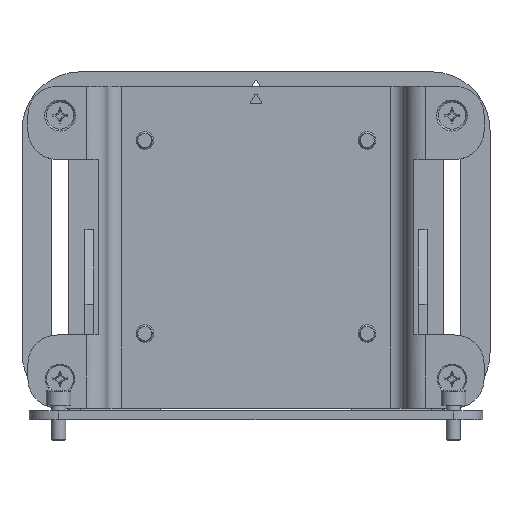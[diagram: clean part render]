
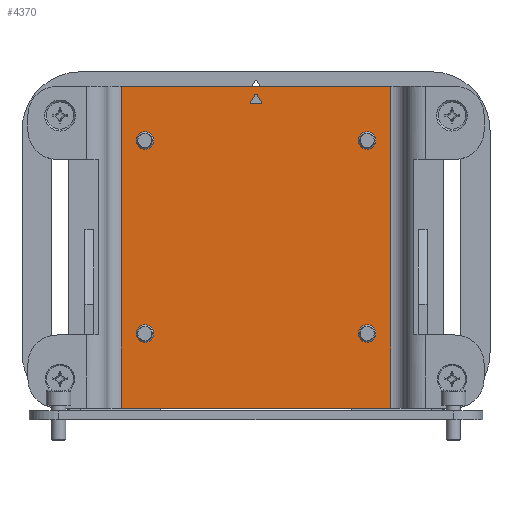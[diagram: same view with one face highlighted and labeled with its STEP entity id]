
A CAD part, top view. The second image highlights one B-rep face of the part: STEP entity #4370.
In plain terms, the highlighted planar face has unit normal (0, 0, 1).
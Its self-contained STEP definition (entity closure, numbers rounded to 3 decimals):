
#4370=ADVANCED_FACE('',(#7214,#7215,#7216,#7217,#7218,#7219),#4909,.F.);
#4909=PLANE('',#13079);
#5286=LINE('',#16464,#6250);
#5287=LINE('',#16467,#6251);
#5288=LINE('',#16469,#6252);
#5289=LINE('',#16471,#6253);
#5290=LINE('',#16479,#6254);
#5291=LINE('',#16483,#6255);
#5292=LINE('',#16487,#6256);
#6250=VECTOR('',#13885,1.);
#6251=VECTOR('',#13886,1.);
#6252=VECTOR('',#13887,1.);
#6253=VECTOR('',#13888,1.);
#6254=VECTOR('',#13895,1.);
#6255=VECTOR('',#13898,1.);
#6256=VECTOR('',#13901,1.);
#7214=FACE_BOUND('',#7495,.T.);
#7215=FACE_BOUND('',#7496,.T.);
#7216=FACE_BOUND('',#7497,.T.);
#7217=FACE_BOUND('',#7498,.T.);
#7218=FACE_BOUND('',#7499,.T.);
#7219=FACE_BOUND('',#7500,.T.);
#7495=EDGE_LOOP('',(#8187));
#7496=EDGE_LOOP('',(#8188));
#7497=EDGE_LOOP('',(#8189,#8190,#8191,#8192));
#7498=EDGE_LOOP('',(#8193));
#7499=EDGE_LOOP('',(#8194));
#7500=EDGE_LOOP('',(#8195,#8196,#8197,#8198,#8199,#8200));
#8187=ORIENTED_EDGE('',*,*,#11553,.T.);
#8188=ORIENTED_EDGE('',*,*,#11554,.F.);
#8189=ORIENTED_EDGE('',*,*,#11555,.F.);
#8190=ORIENTED_EDGE('',*,*,#11556,.F.);
#8191=ORIENTED_EDGE('',*,*,#11557,.T.);
#8192=ORIENTED_EDGE('',*,*,#11558,.T.);
#8193=ORIENTED_EDGE('',*,*,#11559,.F.);
#8194=ORIENTED_EDGE('',*,*,#11560,.T.);
#8195=ORIENTED_EDGE('',*,*,#11561,.F.);
#8196=ORIENTED_EDGE('',*,*,#11562,.F.);
#8197=ORIENTED_EDGE('',*,*,#11563,.F.);
#8198=ORIENTED_EDGE('',*,*,#11564,.F.);
#8199=ORIENTED_EDGE('',*,*,#11565,.F.);
#8200=ORIENTED_EDGE('',*,*,#11566,.F.);
#10687=VERTEX_POINT('',#16461);
#10688=VERTEX_POINT('',#16463);
#10689=VERTEX_POINT('',#16465);
#10690=VERTEX_POINT('',#16466);
#10691=VERTEX_POINT('',#16468);
#10692=VERTEX_POINT('',#16470);
#10693=VERTEX_POINT('',#16473);
#10694=VERTEX_POINT('',#16475);
#10695=VERTEX_POINT('',#16477);
#10696=VERTEX_POINT('',#16478);
#10697=VERTEX_POINT('',#16480);
#10698=VERTEX_POINT('',#16482);
#10699=VERTEX_POINT('',#16484);
#10700=VERTEX_POINT('',#16486);
#11553=EDGE_CURVE('',#10687,#10687,#12803,.T.);
#11554=EDGE_CURVE('',#10688,#10688,#12804,.T.);
#11555=EDGE_CURVE('',#10689,#10690,#5286,.T.);
#11556=EDGE_CURVE('',#10691,#10689,#5287,.T.);
#11557=EDGE_CURVE('',#10691,#10692,#5288,.T.);
#11558=EDGE_CURVE('',#10692,#10690,#5289,.T.);
#11559=EDGE_CURVE('',#10693,#10693,#12805,.T.);
#11560=EDGE_CURVE('',#10694,#10694,#12806,.T.);
#11561=EDGE_CURVE('',#10695,#10696,#12807,.T.);
#11562=EDGE_CURVE('',#10697,#10695,#5290,.T.);
#11563=EDGE_CURVE('',#10698,#10697,#12808,.T.);
#11564=EDGE_CURVE('',#10699,#10698,#5291,.T.);
#11565=EDGE_CURVE('',#10700,#10699,#12809,.T.);
#11566=EDGE_CURVE('',#10696,#10700,#5292,.T.);
#12803=CIRCLE('',#13072,3.);
#12804=CIRCLE('',#13073,3.);
#12805=CIRCLE('',#13074,3.);
#12806=CIRCLE('',#13075,3.);
#12807=CIRCLE('',#13076,0.5);
#12808=CIRCLE('',#13077,0.5);
#12809=CIRCLE('',#13078,0.5);
#13072=AXIS2_PLACEMENT_3D('',#16460,#13881,#13882);
#13073=AXIS2_PLACEMENT_3D('',#16462,#13883,#13884);
#13074=AXIS2_PLACEMENT_3D('',#16472,#13889,#13890);
#13075=AXIS2_PLACEMENT_3D('',#16474,#13891,#13892);
#13076=AXIS2_PLACEMENT_3D('',#16476,#13893,#13894);
#13077=AXIS2_PLACEMENT_3D('',#16481,#13896,#13897);
#13078=AXIS2_PLACEMENT_3D('',#16485,#13899,#13900);
#13079=AXIS2_PLACEMENT_3D('',#16488,#13902,#13903);
#13881=DIRECTION('',(0.,0.,-1.));
#13882=DIRECTION('',(-1.,0.,0.));
#13883=DIRECTION('',(0.,0.,1.));
#13884=DIRECTION('',(-1.,0.,0.));
#13885=DIRECTION('',(1.,0.,0.));
#13886=DIRECTION('',(0.,1.,0.));
#13887=DIRECTION('',(1.,0.,0.));
#13888=DIRECTION('',(0.,1.,0.));
#13889=DIRECTION('',(0.,0.,1.));
#13890=DIRECTION('',(-1.,0.,0.));
#13891=DIRECTION('',(0.,0.,-1.));
#13892=DIRECTION('',(-1.,0.,0.));
#13893=DIRECTION('',(0.,0.,1.));
#13894=DIRECTION('',(-1.,0.,0.));
#13895=DIRECTION('',(-0.5,0.866,0.));
#13896=DIRECTION('',(0.,0.,1.));
#13897=DIRECTION('',(-1.,0.,0.));
#13898=DIRECTION('',(1.,0.,0.));
#13899=DIRECTION('',(0.,0.,1.));
#13900=DIRECTION('',(-1.,0.,0.));
#13901=DIRECTION('',(-0.5,-0.866,0.));
#13902=DIRECTION('',(0.,0.,-1.));
#13903=DIRECTION('',(-1.,0.,0.));
#16460=CARTESIAN_POINT('',(-38.,-33.2,-29.5));
#16461=CARTESIAN_POINT('',(-41.,-33.2,-29.5));
#16462=CARTESIAN_POINT('',(-38.,32.8,-29.5));
#16463=CARTESIAN_POINT('',(-41.,32.8,-29.5));
#16464=CARTESIAN_POINT('',(0.,51.3,-29.5));
#16465=CARTESIAN_POINT('',(-46.,51.3,-29.5));
#16466=CARTESIAN_POINT('',(46.,51.3,-29.5));
#16467=CARTESIAN_POINT('',(-46.,46.3,-29.5));
#16468=CARTESIAN_POINT('',(-46.,-58.7,-29.5));
#16469=CARTESIAN_POINT('',(0.,-58.7,-29.5));
#16470=CARTESIAN_POINT('',(46.,-58.7,-29.5));
#16471=CARTESIAN_POINT('',(46.,-6.2,-29.5));
#16472=CARTESIAN_POINT('',(38.,-33.2,-29.5));
#16473=CARTESIAN_POINT('',(35.,-33.2,-29.5));
#16474=CARTESIAN_POINT('',(38.,32.8,-29.5));
#16475=CARTESIAN_POINT('',(35.,32.8,-29.5));
#16476=CARTESIAN_POINT('',(0.,48.05,-29.5));
#16477=CARTESIAN_POINT('',(0.433,48.3,-29.5));
#16478=CARTESIAN_POINT('',(-0.433,48.3,-29.5));
#16479=CARTESIAN_POINT('',(23.924,7.613,-29.5));
#16480=CARTESIAN_POINT('',(1.732,46.05,-29.5));
#16481=CARTESIAN_POINT('',(1.299,45.8,-29.5));
#16482=CARTESIAN_POINT('',(1.299,45.3,-29.5));
#16483=CARTESIAN_POINT('',(0.,45.3,-29.5));
#16484=CARTESIAN_POINT('',(-1.299,45.3,-29.5));
#16485=CARTESIAN_POINT('',(-1.299,45.8,-29.5));
#16486=CARTESIAN_POINT('',(-1.732,46.05,-29.5));
#16487=CARTESIAN_POINT('',(-23.924,7.613,-29.5));
#16488=CARTESIAN_POINT('',(0.,-6.2,-29.5));
